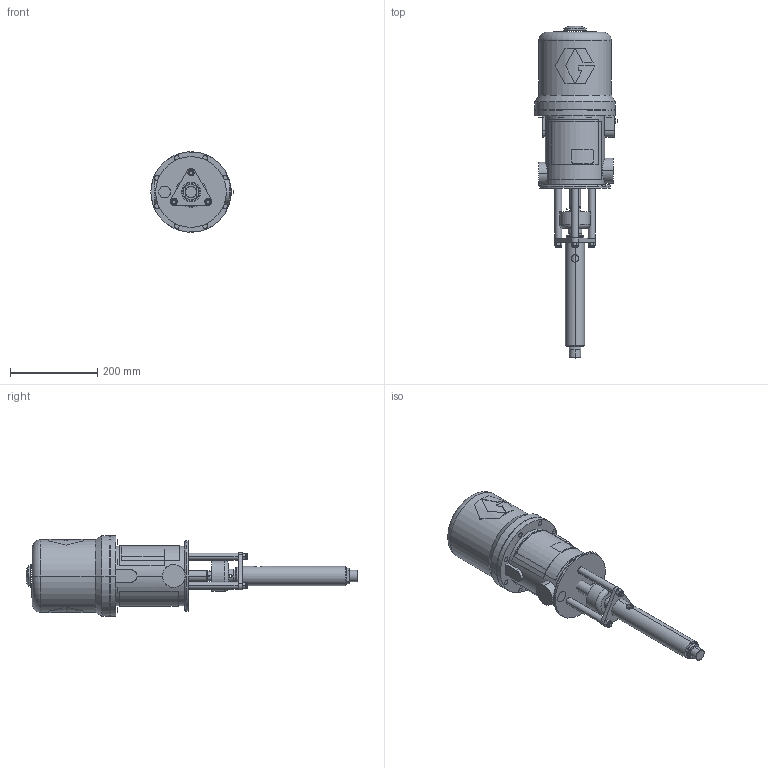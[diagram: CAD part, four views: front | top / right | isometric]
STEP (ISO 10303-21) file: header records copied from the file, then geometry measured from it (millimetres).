
FILE_DESCRIPTION((''),'2;1');
FILE_NAME('243664-EN-F_PRT','2022-06-21T14:21:00',('qufmd1'),(''),'CREO PARAMETRIC BY PTC INC, 2021072','CREO PARAMETRIC BY PTC INC, 2021072','');
FILE_SCHEMA(('CONFIG_CONTROL_DESIGN'));
Length unit declared in the file: inch
Products named in the file (1): 243664-EN-F_PRT
Bounding box: 188.59 x 761.77 x 184.15 mm (x, y, z)
Surface area: 444103.6 mm2 (no closed solid volume)
Topology: 0 solids, 49 shells, 301 faces, 867 edges, 597 vertices
Faces by surface type: plane 118, cone 86, cylinder 82, torus 13, bspline 2
Entity records: 10720 total; most frequent: CARTESIAN_POINT 3352, DIRECTION 1513, ORIENTED_EDGE 1338, EDGE_CURVE 867, AXIS2_PLACEMENT_3D 607, VERTEX_POINT 597, CIRCLE 308, EDGE_LOOP 301
